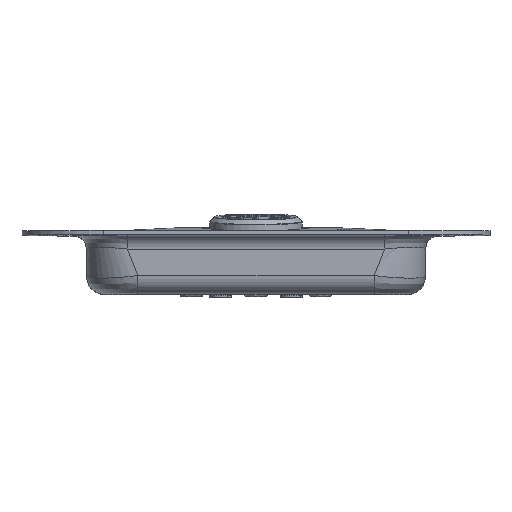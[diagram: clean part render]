
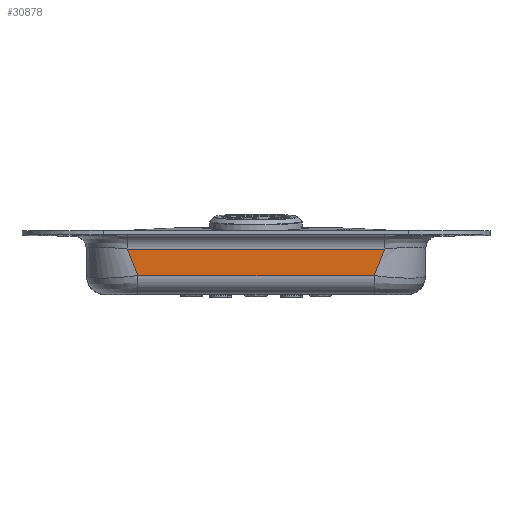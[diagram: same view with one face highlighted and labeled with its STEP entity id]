
A CAD part, top view. The second image highlights one B-rep face of the part: STEP entity #30878.
In plain terms, the highlighted planar face has unit normal (0, 0, 1).
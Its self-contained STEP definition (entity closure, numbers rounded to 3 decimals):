
#141 = CARTESIAN_POINT ( 'NONE',  ( -33.048, -8.48, 91. ) ) ;
#254 = EDGE_CURVE ( 'NONE', #7489, #23914, #8066, .T. ) ;
#503 = CARTESIAN_POINT ( 'NONE',  ( -33.234, -8.037, 91. ) ) ;
#881 = CARTESIAN_POINT ( 'NONE',  ( 34.859, -3.8, 91. ) ) ;
#2378 = B_SPLINE_CURVE_WITH_KNOTS ( 'NONE', 3,
 ( #15403, #29433, #12521, #4852, #12688, #24238, #23890, #15756, #34808, #21018, #35158, #29792, #10573, #23539, #16117, #32470, #34446, #9846, #7170, #18111, #31931, #7347, #503, #13598, #8416, #30670, #3033, #11105, #141, #16486, #22453, #24949, #24592, #5915, #30324, #32650, #22102, #8762, #11448, #5744 ),
 .UNSPECIFIED., .F., .F.,
 ( 4, 1, 1, 1, 1, 1, 1, 2, 2, 1, 1, 1, 1, 1, 2, 2, 1, 1, 1, 1, 2, 2, 1, 1, 1, 1, 1, 2, 2, 4 ),
 ( 0., 0.125, 0.188, 0.219, 0.234, 0.242, 0.246, 0.248, 0.25, 0.375, 0.438, 0.469, 0.484, 0.492, 0.496, 0.5, 0.562, 0.594, 0.609, 0.617, 0.621, 0.625, 0.687, 0.719, 0.734, 0.742, 0.746, 0.748, 0.75, 1. ),
 .UNSPECIFIED. ) ;
#3033 = CARTESIAN_POINT ( 'NONE',  ( -33.131, -8.281, 91. ) ) ;
#3140 = B_SPLINE_CURVE_WITH_KNOTS ( 'NONE', 3,
 ( #24958, #14490, #27628, #25297 ),
 .UNSPECIFIED., .F., .F.,
 ( 4, 4 ),
 ( 0., 1. ),
 .UNSPECIFIED. ) ;
#3417 = PLANE ( 'NONE',  #30006 ) ;
#4852 = CARTESIAN_POINT ( 'NONE',  ( -34.443, -5.039, 91. ) ) ;
#5744 = CARTESIAN_POINT ( 'NONE',  ( -32.044, -11., 91. ) ) ;
#5757 = CARTESIAN_POINT ( 'NONE',  ( 46., -3.8, 91. ) ) ;
#5915 = CARTESIAN_POINT ( 'NONE',  ( -32.758, -9.174, 91. ) ) ;
#7143 = DIRECTION ( 'NONE',  ( -1., 0., 0. ) ) ;
#7170 = CARTESIAN_POINT ( 'NONE',  ( -33.512, -7.379, 91. ) ) ;
#7347 = CARTESIAN_POINT ( 'NONE',  ( -33.345, -7.775, 91. ) ) ;
#7489 = VERTEX_POINT ( 'NONE', #12979 ) ;
#7502 = CARTESIAN_POINT ( 'NONE',  ( 32.044, -11., 91. ) ) ;
#7917 = CARTESIAN_POINT ( 'NONE',  ( -32.044, -11., 91. ) ) ;
#8066 = LINE ( 'NONE', #5757, #9348 ) ;
#8133 = ORIENTED_EDGE ( 'NONE', *, *, #11239, .F. ) ;
#8416 = CARTESIAN_POINT ( 'NONE',  ( -33.151, -8.234, 91. ) ) ;
#8762 = CARTESIAN_POINT ( 'NONE',  ( -32.465, -9.886, 91. ) ) ;
#9348 = VECTOR ( 'NONE', #35173, 1000. ) ;
#9478 = DIRECTION ( 'NONE',  ( 0., 0., -1. ) ) ;
#9846 = CARTESIAN_POINT ( 'NONE',  ( -33.521, -7.357, 91. ) ) ;
#10573 = CARTESIAN_POINT ( 'NONE',  ( -33.968, -6.275, 91. ) ) ;
#11105 = CARTESIAN_POINT ( 'NONE',  ( -33.128, -8.289, 91. ) ) ;
#11239 = EDGE_CURVE ( 'NONE', #23914, #24905, #3140, .T. ) ;
#11448 = CARTESIAN_POINT ( 'NONE',  ( -32.23, -10.486, 91. ) ) ;
#12521 = CARTESIAN_POINT ( 'NONE',  ( -34.635, -4.502, 91. ) ) ;
#12688 = CARTESIAN_POINT ( 'NONE',  ( -34.34, -5.317, 91. ) ) ;
#12979 = CARTESIAN_POINT ( 'NONE',  ( -34.859, -3.8, 91. ) ) ;
#13598 = CARTESIAN_POINT ( 'NONE',  ( -33.179, -8.169, 91. ) ) ;
#14490 = CARTESIAN_POINT ( 'NONE',  ( 34.126, -6.2, 91. ) ) ;
#14969 = VECTOR ( 'NONE', #16576, 1000. ) ;
#15403 = CARTESIAN_POINT ( 'NONE',  ( -34.859, -3.8, 91. ) ) ;
#15497 = LINE ( 'NONE', #21478, #14969 ) ;
#15756 = CARTESIAN_POINT ( 'NONE',  ( -34.246, -5.564, 91. ) ) ;
#16117 = CARTESIAN_POINT ( 'NONE',  ( -33.626, -7.105, 91. ) ) ;
#16197 = ORIENTED_EDGE ( 'NONE', *, *, #18721, .T. ) ;
#16486 = CARTESIAN_POINT ( 'NONE',  ( -32.944, -8.728, 91. ) ) ;
#16576 = DIRECTION ( 'NONE',  ( -1., 0., 0. ) ) ;
#17067 = EDGE_CURVE ( 'NONE', #24905, #34331, #15497, .T. ) ;
#18111 = CARTESIAN_POINT ( 'NONE',  ( -33.507, -7.391, 91. ) ) ;
#18721 = EDGE_CURVE ( 'NONE', #7489, #34331, #2378, .T. ) ;
#20663 = ORIENTED_EDGE ( 'NONE', *, *, #254, .F. ) ;
#21018 = CARTESIAN_POINT ( 'NONE',  ( -34.236, -5.59, 91. ) ) ;
#21478 = CARTESIAN_POINT ( 'NONE',  ( 0., -11., 91. ) ) ;
#21516 = ORIENTED_EDGE ( 'NONE', *, *, #17067, .F. ) ;
#22102 = CARTESIAN_POINT ( 'NONE',  ( -32.75, -9.195, 91. ) ) ;
#22453 = CARTESIAN_POINT ( 'NONE',  ( -32.84, -8.977, 91. ) ) ;
#23539 = CARTESIAN_POINT ( 'NONE',  ( -33.745, -6.819, 91. ) ) ;
#23890 = CARTESIAN_POINT ( 'NONE',  ( -34.259, -5.529, 91. ) ) ;
#23914 = VERTEX_POINT ( 'NONE', #881 ) ;
#24238 = CARTESIAN_POINT ( 'NONE',  ( -34.287, -5.458, 91. ) ) ;
#24592 = CARTESIAN_POINT ( 'NONE',  ( -32.77, -9.147, 91. ) ) ;
#24905 = VERTEX_POINT ( 'NONE', #7502 ) ;
#24949 = CARTESIAN_POINT ( 'NONE',  ( -32.792, -9.092, 91. ) ) ;
#24958 = CARTESIAN_POINT ( 'NONE',  ( 34.859, -3.8, 91. ) ) ;
#25297 = CARTESIAN_POINT ( 'NONE',  ( 32.044, -11., 91. ) ) ;
#27628 = CARTESIAN_POINT ( 'NONE',  ( 32.914, -8.6, 91. ) ) ;
#27988 = FACE_OUTER_BOUND ( 'NONE', #28646, .T. ) ;
#28646 = EDGE_LOOP ( 'NONE', ( #20663, #16197, #21516, #8133 ) ) ;
#29433 = CARTESIAN_POINT ( 'NONE',  ( -34.776, -4.073, 91. ) ) ;
#29792 = CARTESIAN_POINT ( 'NONE',  ( -34.133, -5.857, 91. ) ) ;
#30006 = AXIS2_PLACEMENT_3D ( 'NONE', #34420, #9478, #7143 ) ;
#30324 = CARTESIAN_POINT ( 'NONE',  ( -32.754, -9.185, 91. ) ) ;
#30670 = CARTESIAN_POINT ( 'NONE',  ( -33.139, -8.262, 91. ) ) ;
#30878 = ADVANCED_FACE ( 'NONE', ( #27988 ), #3417, .F. ) ;
#31931 = CARTESIAN_POINT ( 'NONE',  ( -33.439, -7.55, 91. ) ) ;
#32470 = CARTESIAN_POINT ( 'NONE',  ( -33.565, -7.251, 91. ) ) ;
#32650 = CARTESIAN_POINT ( 'NONE',  ( -32.751, -9.192, 91. ) ) ;
#34331 = VERTEX_POINT ( 'NONE', #7917 ) ;
#34420 = CARTESIAN_POINT ( 'NONE',  ( 46., -16., 91. ) ) ;
#34446 = CARTESIAN_POINT ( 'NONE',  ( -33.534, -7.325, 91. ) ) ;
#34808 = CARTESIAN_POINT ( 'NONE',  ( -34.24, -5.58, 91. ) ) ;
#35158 = CARTESIAN_POINT ( 'NONE',  ( -34.234, -5.596, 91. ) ) ;
#35173 = DIRECTION ( 'NONE',  ( 1., 0., 0. ) ) ;
